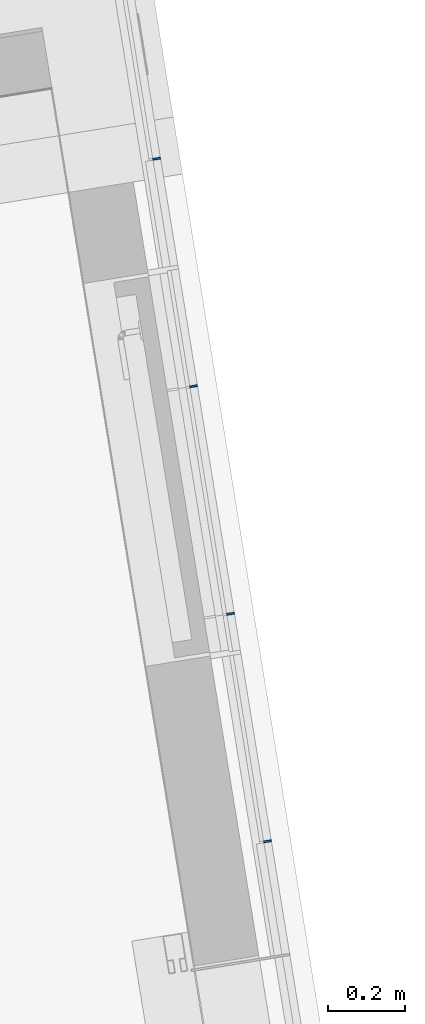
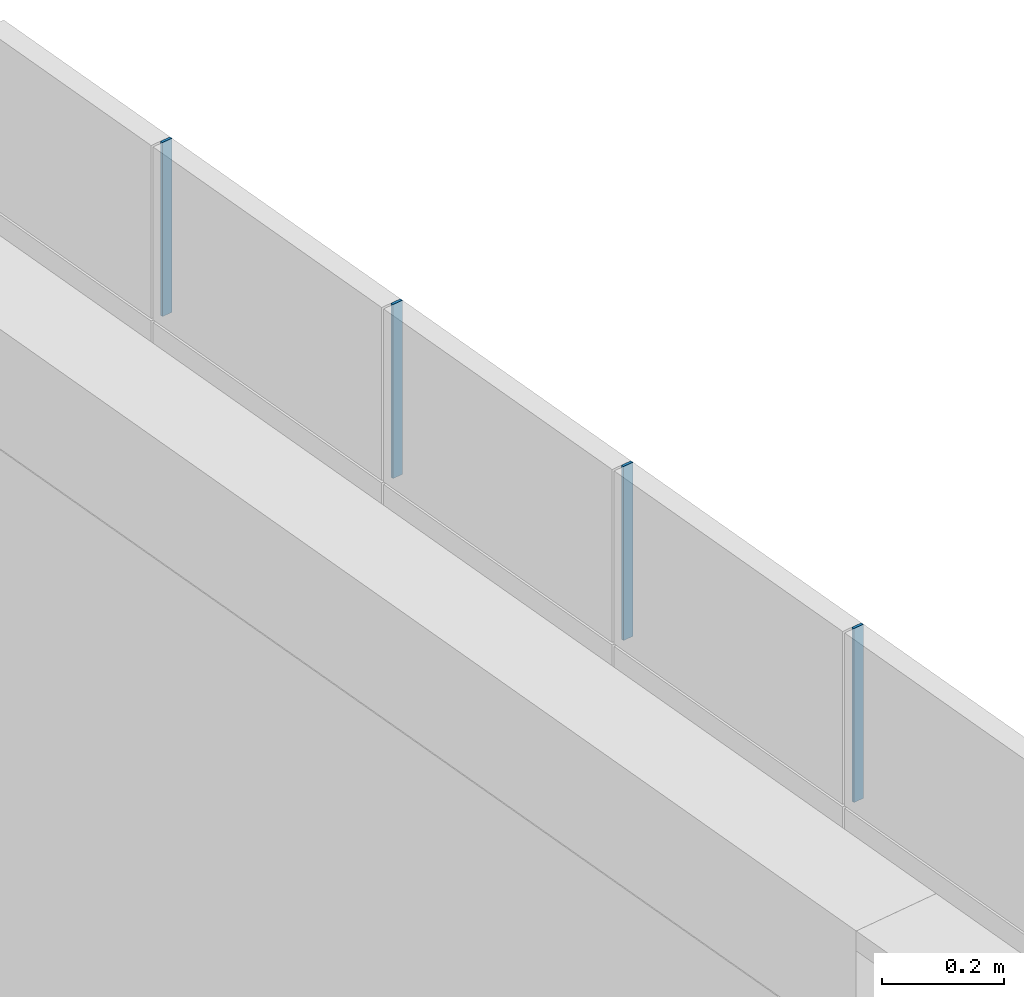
# One storey, part 21 of 38: 4 members, 1 element without a shape of its own.
"""IFC2X3 building model written with IfcOpenShell, lengths in millimetres."""

from ifc_helpers import new_model, entity, si_unit, converted_unit, derived_unit, direction, frame, origin, origin_with_axes, place, context, subcontext, project, spatial, faceted_brep, material, type_object, element, aggregate, save


model = new_model("IFC2X3")

# Units and contexts
model_context = context("Model", 3, precision=0.01, world=origin(), true_north=direction((6.12323399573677e-17, 1.0)))
plan_context = context("Plan", 3, precision=1e-05, world=origin_with_axes())
body_context = subcontext(model_context, "Body", "Model", "MODEL_VIEW")
ifc_project = project(units=[converted_unit("PLANEANGLEUNIT", "DEGREE", entity("IfcPositiveLengthMeasure", 0.0174532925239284), si_unit("PLANEANGLEUNIT", "RADIAN"), dimensions=[0, 0, 0, 0, 0, 0, 0]), si_unit("AREAUNIT", "SQUARE_METRE"), si_unit("LENGTHUNIT", "METRE", prefix="MILLI"), si_unit("MASSUNIT", "GRAM", prefix="KILO"), si_unit("POWERUNIT", "WATT"), si_unit("PRESSUREUNIT", "PASCAL", prefix="KILO"), si_unit("FORCEUNIT", "NEWTON", prefix="KILO"), si_unit("ELECTRICVOLTAGEUNIT", "VOLT"), si_unit("ELECTRICCURRENTUNIT", "AMPERE"), si_unit("THERMODYNAMICTEMPERATUREUNIT", "DEGREE_CELSIUS"), si_unit("TIMEUNIT", "SECOND"), si_unit("VOLUMEUNIT", "CUBIC_METRE"), derived_unit("LINEARVELOCITYUNIT", [(si_unit("LENGTHUNIT", "METRE"), 1), (si_unit("TIMEUNIT", "SECOND"), -1)]), derived_unit("VOLUMETRICFLOWRATEUNIT", [(si_unit("VOLUMEUNIT", "CUBIC_METRE"), 1), (si_unit("TIMEUNIT", "SECOND"), -1)]), derived_unit("THERMALTRANSMITTANCEUNIT", [(si_unit("POWERUNIT", "WATT"), 1), (si_unit("THERMODYNAMICTEMPERATUREUNIT", "KELVIN"), -1), (si_unit("AREAUNIT", "SQUARE_METRE"), -1)]), derived_unit("SOUNDPRESSUREUNIT", [(si_unit("PRESSUREUNIT", "PASCAL"), 1)])], contexts=[model_context, plan_context])

# Site, building, storey
site_placement = place(None, frame((-0.00071070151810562, 0.00438415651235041, 0.0), z_axis=(0.0, 0.0, 1.0), x_axis=(-0.160236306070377, 0.987078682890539, 0.0)))
site = spatial("IfcSite", under=ifc_project, at=site_placement, Name="Default", CompositionType="ELEMENT")
building_placement = place(site_placement, origin_with_axes())
building = spatial("IfcBuilding", under=site, at=building_placement, Name="TOO", CompositionType="ELEMENT")
storey_placement = place(building_placement, frame((0.0, 0.0, 50999.9999999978), z_axis=(0.0, 0.0, 1.0), x_axis=(1.0, 0.0, 0.0)))
storey = spatial("IfcBuildingStorey", under=building, at=storey_placement, Name="Nivå D-H01", CompositionType="ELEMENT", Elevation=50999.9999999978)

# Curtain wall, members
curtain_wall_type = type_object("IfcCurtainWallType", Name="Curtain Wall:Curtain Wall Standard (Bruk kun denne)", PredefinedType="NOTDEFINED")
curtain_wall_placement = place(storey_placement, frame((0.0, 0.0, -50999.9999999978), z_axis=(0.0, 0.0, 1.0), x_axis=(1.0, 0.0, 0.0)))
curtain_wall = element("IfcCurtainWall", 1, at=curtain_wall_placement, inside=storey, type_object=curtain_wall_type, Name="Curtain Wall:Curtain Wall Standard (Bruk kun denne)", ObjectType="Curtain Wall:Curtain Wall Standard (Bruk kun denne)")
ifc_material = material(Name="Rubber")
member_type = type_object("IfcMemberType", Name="Rectangular Mullion:A246 - Fuge 5mm L09", PredefinedType="MULLION", material=ifc_material)
member_1_placement = place(curtain_wall_placement, frame((779577.619644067, -604232.480498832, 54850.0), z_axis=(0.0, 0.0, -1.0), x_axis=(-1.0, 0.0, 0.0)))
member_1 = element("IfcMember", 2, at=member_1_placement, type_object=member_type, Name="Rectangular Mullion:A246 - Fuge 5mm L09", ObjectType="Rectangular Mullion:A246 - Fuge 5mm L09", context=body_context, shape_type="Brep", body=[
    faceted_brep([(2.5, 20.0, -349.999999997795), (2.5, -1.77635683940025e-15, -349.999999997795), (2.5, -1.77635683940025e-15, 2.20916263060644e-09), (2.5, 20.0, 2.20916263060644e-09), (-2.5, 20.0, -349.999999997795), (-2.5, 20.0, 2.20916263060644e-09), (-2.5, -1.77635683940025e-15, -349.999999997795), (-2.5, -1.77635683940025e-15, 2.20916263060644e-09)], [[[0, 1, 2, 3]], [[4, 0, 3, 5]], [[6, 4, 5, 7]], [[1, 6, 7, 2]], [[3, 2, 7, 5]], [[4, 6, 1, 0]]], orient=[[False], [False], [False], [False], [False], [False]]),
])
member_2_placement = place(curtain_wall_placement, frame((778977.619644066, -604232.480498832, 54850.0), z_axis=(0.0, 0.0, -1.0), x_axis=(-1.0, 0.0, 0.0)))
member_2 = element("IfcMember", 3, at=member_2_placement, type_object=member_type, Name="Rectangular Mullion:A246 - Fuge 5mm L09", ObjectType="Rectangular Mullion:A246 - Fuge 5mm L09", context=body_context, shape_type="Brep", body=[
    faceted_brep([(2.5, 20.0, -349.999999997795), (2.5, -1.77635683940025e-15, -349.999999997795), (2.5, -1.77635683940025e-15, 2.20916263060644e-09), (2.5, 20.0, 2.20916263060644e-09), (-2.5, 20.0, -349.999999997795), (-2.5, 20.0, 2.20916263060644e-09), (-2.5, -1.77635683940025e-15, -349.999999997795), (-2.5, -1.77635683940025e-15, 2.20916263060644e-09)], [[[0, 1, 2, 3]], [[4, 0, 3, 5]], [[6, 4, 5, 7]], [[1, 6, 7, 2]], [[3, 2, 7, 5]], [[4, 6, 1, 0]]], orient=[[False], [False], [False], [False], [False], [False]]),
])
member_3_placement = place(curtain_wall_placement, frame((778377.619644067, -604232.480498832, 54850.0), z_axis=(0.0, 0.0, -1.0), x_axis=(-1.0, 0.0, 0.0)))
member_3 = element("IfcMember", 4, at=member_3_placement, type_object=member_type, Name="Rectangular Mullion:A246 - Fuge 5mm L09", ObjectType="Rectangular Mullion:A246 - Fuge 5mm L09", context=body_context, shape_type="Brep", body=[
    faceted_brep([(2.5, 20.0, -349.999999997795), (2.5, -1.77635683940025e-15, -349.999999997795), (2.5, -1.77635683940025e-15, 2.20916263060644e-09), (2.5, 20.0, 2.20916263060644e-09), (-2.5, 20.0, -349.999999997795), (-2.5, 20.0, 2.20916263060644e-09), (-2.5, -1.77635683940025e-15, -349.999999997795), (-2.5, -1.77635683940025e-15, 2.20916263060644e-09)], [[[0, 1, 2, 3]], [[4, 0, 3, 5]], [[6, 4, 5, 7]], [[1, 6, 7, 2]], [[3, 2, 7, 5]], [[4, 6, 1, 0]]], orient=[[False], [False], [False], [False], [False], [False]]),
])
member_4_placement = place(curtain_wall_placement, frame((777777.619644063, -604232.480498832, 54850.0), z_axis=(0.0, 0.0, -1.0), x_axis=(-1.0, 0.0, 0.0)))
member_4 = element("IfcMember", 5, at=member_4_placement, type_object=member_type, Name="Rectangular Mullion:A246 - Fuge 5mm L09", ObjectType="Rectangular Mullion:A246 - Fuge 5mm L09", context=body_context, shape_type="Brep", body=[
    faceted_brep([(2.5, 20.0, -349.999999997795), (2.5, -1.77635683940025e-15, -349.999999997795), (2.5, -1.77635683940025e-15, 2.20916263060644e-09), (2.5, 20.0, 2.20916263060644e-09), (-2.5, 20.0, -349.999999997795), (-2.5, 20.0, 2.20916263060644e-09), (-2.5, -1.77635683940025e-15, -349.999999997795), (-2.5, -1.77635683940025e-15, 2.20916263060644e-09)], [[[0, 1, 2, 3]], [[4, 0, 3, 5]], [[6, 4, 5, 7]], [[1, 6, 7, 2]], [[3, 2, 7, 5]], [[4, 6, 1, 0]]], orient=[[False], [False], [False], [False], [False], [False]]),
])
aggregate(curtain_wall, [member_1, member_2, member_3, member_4])

save(model, "model.ifc")
